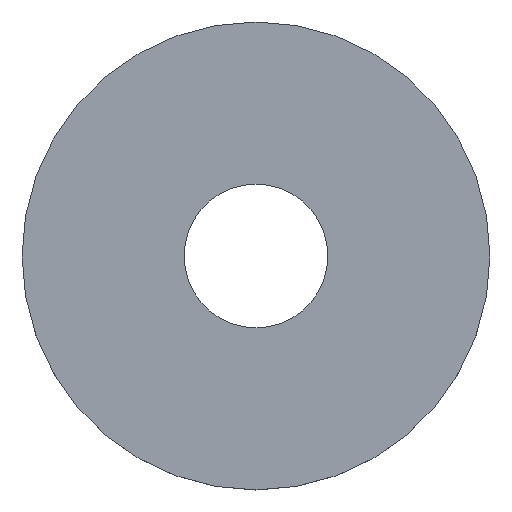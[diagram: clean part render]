
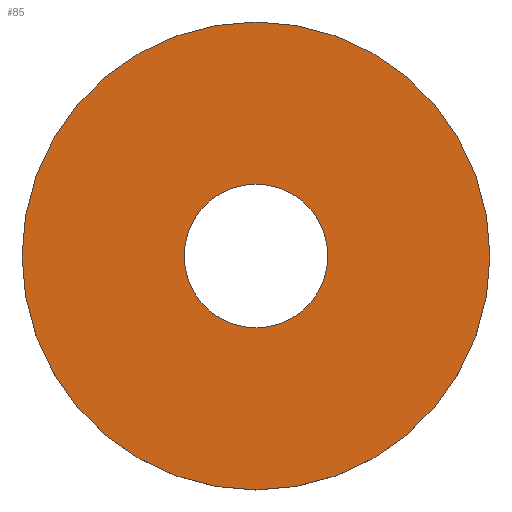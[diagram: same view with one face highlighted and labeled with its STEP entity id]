
A CAD part, top view. The second image highlights one B-rep face of the part: STEP entity #85.
In plain terms, the highlighted planar face has unit normal (0, 0, 1).
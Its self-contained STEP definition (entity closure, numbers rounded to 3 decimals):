
#13 = VERTEX_POINT ( 'NONE', #195 ) ;
#15 = CARTESIAN_POINT ( 'NONE',  ( 0., 0., 1. ) ) ;
#29 = DIRECTION ( 'NONE',  ( 0., 0., 1. ) ) ;
#32 = AXIS2_PLACEMENT_3D ( 'NONE', #15, #42, #104 ) ;
#35 = CARTESIAN_POINT ( 'NONE',  ( 0., 0., 1. ) ) ;
#39 = CARTESIAN_POINT ( 'NONE',  ( 2.15, 0., 1. ) ) ;
#41 = FACE_OUTER_BOUND ( 'NONE', #86, .T. ) ;
#42 = DIRECTION ( 'NONE',  ( 0., 0., 1. ) ) ;
#55 = DIRECTION ( 'NONE',  ( 1., 0., 0. ) ) ;
#60 = VERTEX_POINT ( 'NONE', #39 ) ;
#64 = CIRCLE ( 'NONE', #199, 7. ) ;
#68 = EDGE_CURVE ( 'NONE', #90, #185, #164, .T. ) ;
#69 = DIRECTION ( 'NONE',  ( 1., 0., 0. ) ) ;
#70 = CARTESIAN_POINT ( 'NONE',  ( -7., 0., 1. ) ) ;
#85 = ADVANCED_FACE ( 'NONE', ( #41, #102 ), #171, .T. ) ;
#86 = EDGE_LOOP ( 'NONE', ( #119, #115 ) ) ;
#90 = VERTEX_POINT ( 'NONE', #70 ) ;
#92 = EDGE_CURVE ( 'NONE', #185, #90, #64, .T. ) ;
#96 = EDGE_CURVE ( 'NONE', #13, #60, #144, .T. ) ;
#101 = EDGE_LOOP ( 'NONE', ( #184, #121 ) ) ;
#102 = FACE_BOUND ( 'NONE', #101, .T. ) ;
#104 = DIRECTION ( 'NONE',  ( 1., 0., 0. ) ) ;
#111 = DIRECTION ( 'NONE',  ( 1., 0., 0. ) ) ;
#114 = AXIS2_PLACEMENT_3D ( 'NONE', #169, #151, #198 ) ;
#115 = ORIENTED_EDGE ( 'NONE', *, *, #92, .T. ) ;
#119 = ORIENTED_EDGE ( 'NONE', *, *, #68, .T. ) ;
#121 = ORIENTED_EDGE ( 'NONE', *, *, #170, .F. ) ;
#125 = DIRECTION ( 'NONE',  ( 0., 0., 1. ) ) ;
#138 = CARTESIAN_POINT ( 'NONE',  ( 0., 0., 1. ) ) ;
#144 = CIRCLE ( 'NONE', #32, 2.15 ) ;
#151 = DIRECTION ( 'NONE',  ( 0., 0., 1. ) ) ;
#158 = CIRCLE ( 'NONE', #174, 2.15 ) ;
#161 = AXIS2_PLACEMENT_3D ( 'NONE', #138, #29, #69 ) ;
#164 = CIRCLE ( 'NONE', #114, 7. ) ;
#169 = CARTESIAN_POINT ( 'NONE',  ( 0., 0., 1. ) ) ;
#170 = EDGE_CURVE ( 'NONE', #60, #13, #158, .T. ) ;
#171 = PLANE ( 'NONE',  #161 ) ;
#174 = AXIS2_PLACEMENT_3D ( 'NONE', #35, #178, #111 ) ;
#178 = DIRECTION ( 'NONE',  ( 0., 0., 1. ) ) ;
#184 = ORIENTED_EDGE ( 'NONE', *, *, #96, .F. ) ;
#185 = VERTEX_POINT ( 'NONE', #191 ) ;
#191 = CARTESIAN_POINT ( 'NONE',  ( 7., 0., 1. ) ) ;
#195 = CARTESIAN_POINT ( 'NONE',  ( -2.15, 0., 1. ) ) ;
#196 = CARTESIAN_POINT ( 'NONE',  ( 0., 0., 1. ) ) ;
#198 = DIRECTION ( 'NONE',  ( 1., 0., 0. ) ) ;
#199 = AXIS2_PLACEMENT_3D ( 'NONE', #196, #125, #55 ) ;
